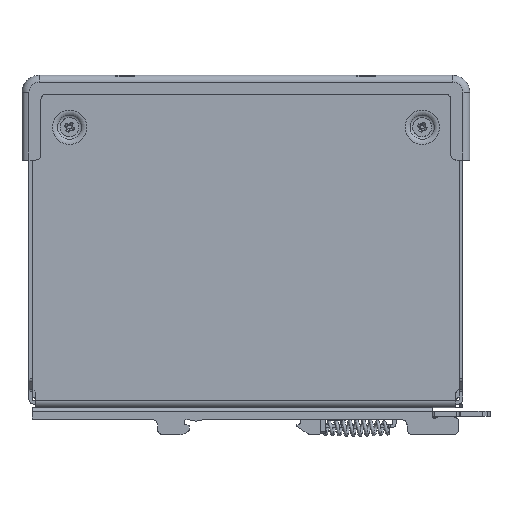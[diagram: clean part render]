
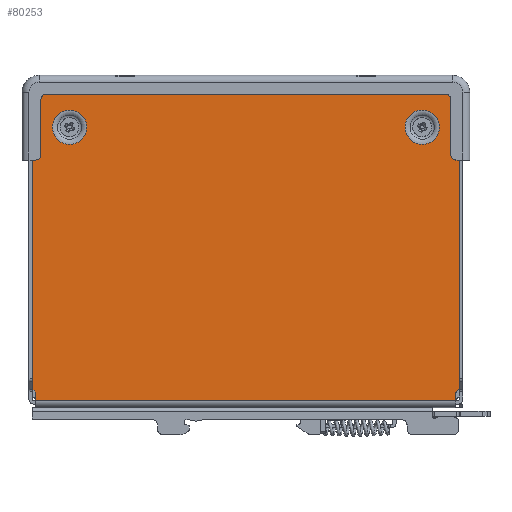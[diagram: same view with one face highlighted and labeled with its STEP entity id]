
A CAD part, left-side view. The second image highlights one B-rep face of the part: STEP entity #80253.
In plain terms, the highlighted planar face has unit normal (-1, 0, 0).
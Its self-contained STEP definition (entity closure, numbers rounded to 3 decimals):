
#1786=CIRCLE('',#85805,4.982);
#1787=CIRCLE('',#85806,0.5);
#1788=CIRCLE('',#85807,0.5);
#1789=CIRCLE('',#85808,0.5);
#1790=CIRCLE('',#85809,1.5);
#1791=CIRCLE('',#85810,1.5);
#1792=CIRCLE('',#85811,1.5);
#1793=CIRCLE('',#85812,1.5);
#1794=CIRCLE('',#85813,0.5);
#1795=CIRCLE('',#85814,0.5);
#1796=CIRCLE('',#85815,0.5);
#1797=CIRCLE('',#85816,4.982);
#11915=ORIENTED_EDGE('',*,*,#29465,.T.);
#11916=ORIENTED_EDGE('',*,*,#29466,.T.);
#11917=ORIENTED_EDGE('',*,*,#29467,.T.);
#11918=ORIENTED_EDGE('',*,*,#29468,.F.);
#11919=ORIENTED_EDGE('',*,*,#29469,.T.);
#11920=ORIENTED_EDGE('',*,*,#29470,.F.);
#11921=ORIENTED_EDGE('',*,*,#29471,.T.);
#11922=ORIENTED_EDGE('',*,*,#29472,.T.);
#11923=ORIENTED_EDGE('',*,*,#29473,.T.);
#11924=ORIENTED_EDGE('',*,*,#29474,.F.);
#11925=ORIENTED_EDGE('',*,*,#29475,.T.);
#11926=ORIENTED_EDGE('',*,*,#29476,.T.);
#11927=ORIENTED_EDGE('',*,*,#29477,.T.);
#11928=ORIENTED_EDGE('',*,*,#29478,.T.);
#11929=ORIENTED_EDGE('',*,*,#29479,.T.);
#11930=ORIENTED_EDGE('',*,*,#29480,.T.);
#11931=ORIENTED_EDGE('',*,*,#29481,.T.);
#11932=ORIENTED_EDGE('',*,*,#29482,.T.);
#11933=ORIENTED_EDGE('',*,*,#29483,.T.);
#11934=ORIENTED_EDGE('',*,*,#29484,.F.);
#11935=ORIENTED_EDGE('',*,*,#29485,.T.);
#11936=ORIENTED_EDGE('',*,*,#29486,.T.);
#11937=ORIENTED_EDGE('',*,*,#29487,.T.);
#11938=ORIENTED_EDGE('',*,*,#29488,.T.);
#29465=EDGE_CURVE('',#40844,#40844,#1786,.T.);
#29466=EDGE_CURVE('',#40845,#40846,#49923,.T.);
#29467=EDGE_CURVE('',#40846,#40847,#49924,.T.);
#29468=EDGE_CURVE('',#40848,#40847,#49925,.T.);
#29469=EDGE_CURVE('',#40848,#40849,#1787,.T.);
#29470=EDGE_CURVE('',#40850,#40849,#49926,.T.);
#29471=EDGE_CURVE('',#40850,#40851,#1788,.T.);
#29472=EDGE_CURVE('',#40851,#40852,#49927,.T.);
#29473=EDGE_CURVE('',#40852,#40853,#1789,.T.);
#29474=EDGE_CURVE('',#40854,#40853,#49928,.T.);
#29475=EDGE_CURVE('',#40854,#40855,#1790,.T.);
#29476=EDGE_CURVE('',#40855,#40856,#49929,.T.);
#29477=EDGE_CURVE('',#40856,#40857,#1791,.T.);
#29478=EDGE_CURVE('',#40857,#40858,#49930,.T.);
#29479=EDGE_CURVE('',#40858,#40859,#1792,.T.);
#29480=EDGE_CURVE('',#40859,#40860,#49931,.T.);
#29481=EDGE_CURVE('',#40860,#40861,#1793,.T.);
#29482=EDGE_CURVE('',#40861,#40862,#49932,.T.);
#29483=EDGE_CURVE('',#40862,#40863,#1794,.T.);
#29484=EDGE_CURVE('',#40864,#40863,#49933,.T.);
#29485=EDGE_CURVE('',#40864,#40865,#1795,.T.);
#29486=EDGE_CURVE('',#40865,#40866,#49934,.T.);
#29487=EDGE_CURVE('',#40866,#40845,#1796,.T.);
#29488=EDGE_CURVE('',#40867,#40867,#1797,.T.);
#40844=VERTEX_POINT('',#121321);
#40845=VERTEX_POINT('',#121323);
#40846=VERTEX_POINT('',#121324);
#40847=VERTEX_POINT('',#121326);
#40848=VERTEX_POINT('',#121328);
#40849=VERTEX_POINT('',#121330);
#40850=VERTEX_POINT('',#121332);
#40851=VERTEX_POINT('',#121334);
#40852=VERTEX_POINT('',#121336);
#40853=VERTEX_POINT('',#121338);
#40854=VERTEX_POINT('',#121340);
#40855=VERTEX_POINT('',#121342);
#40856=VERTEX_POINT('',#121344);
#40857=VERTEX_POINT('',#121346);
#40858=VERTEX_POINT('',#121348);
#40859=VERTEX_POINT('',#121350);
#40860=VERTEX_POINT('',#121352);
#40861=VERTEX_POINT('',#121354);
#40862=VERTEX_POINT('',#121356);
#40863=VERTEX_POINT('',#121358);
#40864=VERTEX_POINT('',#121360);
#40865=VERTEX_POINT('',#121362);
#40866=VERTEX_POINT('',#121364);
#40867=VERTEX_POINT('',#121367);
#49923=LINE('',#121322,#59291);
#49924=LINE('',#121325,#59292);
#49925=LINE('',#121327,#59293);
#49926=LINE('',#121331,#59294);
#49927=LINE('',#121335,#59295);
#49928=LINE('',#121339,#59296);
#49929=LINE('',#121343,#59297);
#49930=LINE('',#121347,#59298);
#49931=LINE('',#121351,#59299);
#49932=LINE('',#121355,#59300);
#49933=LINE('',#121359,#59301);
#49934=LINE('',#121363,#59302);
#59291=VECTOR('',#98206,1000.);
#59292=VECTOR('',#98207,1000.);
#59293=VECTOR('',#98208,1000.);
#59294=VECTOR('',#98211,1000.);
#59295=VECTOR('',#98214,1000.);
#59296=VECTOR('',#98217,1000.);
#59297=VECTOR('',#98220,1000.);
#59298=VECTOR('',#98223,1000.);
#59299=VECTOR('',#98226,1000.);
#59300=VECTOR('',#98229,1000.);
#59301=VECTOR('',#98232,1000.);
#59302=VECTOR('',#98235,1000.);
#67462=EDGE_LOOP('',(#11915));
#67463=EDGE_LOOP('',(#11916,#11917,#11918,#11919,#11920,#11921,#11922,#11923,
#11924,#11925,#11926,#11927,#11928,#11929,#11930,#11931,#11932,#11933,#11934,
#11935,#11936,#11937));
#67464=EDGE_LOOP('',(#11938));
#71573=FACE_BOUND('',#67462,.T.);
#71574=FACE_BOUND('',#67463,.T.);
#71575=FACE_BOUND('',#67464,.T.);
#74820=PLANE('',#85804);
#80253=ADVANCED_FACE('',(#71573,#71574,#71575),#74820,.F.);
#85804=AXIS2_PLACEMENT_3D('',#121319,#98202,#98203);
#85805=AXIS2_PLACEMENT_3D('',#121320,#98204,#98205);
#85806=AXIS2_PLACEMENT_3D('',#121329,#98209,#98210);
#85807=AXIS2_PLACEMENT_3D('',#121333,#98212,#98213);
#85808=AXIS2_PLACEMENT_3D('',#121337,#98215,#98216);
#85809=AXIS2_PLACEMENT_3D('',#121341,#98218,#98219);
#85810=AXIS2_PLACEMENT_3D('',#121345,#98221,#98222);
#85811=AXIS2_PLACEMENT_3D('',#121349,#98224,#98225);
#85812=AXIS2_PLACEMENT_3D('',#121353,#98227,#98228);
#85813=AXIS2_PLACEMENT_3D('',#121357,#98230,#98231);
#85814=AXIS2_PLACEMENT_3D('',#121361,#98233,#98234);
#85815=AXIS2_PLACEMENT_3D('',#121365,#98236,#98237);
#85816=AXIS2_PLACEMENT_3D('',#121366,#98238,#98239);
#98202=DIRECTION('',(1.,0.,0.));
#98203=DIRECTION('',(0.,1.,0.));
#98204=DIRECTION('',(1.,0.,0.));
#98205=DIRECTION('',(0.,0.,-1.));
#98206=DIRECTION('',(0.,0.,-1.));
#98207=DIRECTION('',(0.,-1.,0.));
#98208=DIRECTION('',(0.,0.,-1.));
#98209=DIRECTION('',(1.,0.,0.));
#98210=DIRECTION('',(0.,0.,-1.));
#98211=DIRECTION('',(0.,0.707,-0.707));
#98212=DIRECTION('',(-1.,0.,0.));
#98213=DIRECTION('',(0.,0.,-1.));
#98214=DIRECTION('',(0.,0.,1.));
#98215=DIRECTION('',(-1.,0.,0.));
#98216=DIRECTION('',(0.,0.,-1.));
#98217=DIRECTION('',(0.,-1.,0.));
#98218=DIRECTION('',(1.,0.,0.));
#98219=DIRECTION('',(0.,0.,-1.));
#98220=DIRECTION('',(0.,0.,1.));
#98221=DIRECTION('',(-1.,0.,0.));
#98222=DIRECTION('',(0.,0.,-1.));
#98223=DIRECTION('',(0.,1.,0.));
#98224=DIRECTION('',(-1.,0.,0.));
#98225=DIRECTION('',(0.,0.,-1.));
#98226=DIRECTION('',(0.,0.,-1.));
#98227=DIRECTION('',(1.,0.,0.));
#98228=DIRECTION('',(0.,0.,-1.));
#98229=DIRECTION('',(0.,1.,0.));
#98230=DIRECTION('',(-1.,0.,0.));
#98231=DIRECTION('',(0.,0.,-1.));
#98232=DIRECTION('',(0.,0.,1.));
#98233=DIRECTION('',(-1.,0.,0.));
#98234=DIRECTION('',(0.,0.,-1.));
#98235=DIRECTION('',(0.,-0.707,-0.707));
#98236=DIRECTION('',(1.,0.,0.));
#98237=DIRECTION('',(0.,0.,-1.));
#98238=DIRECTION('',(1.,0.,0.));
#98239=DIRECTION('',(0.,0.,-1.));
#121319=CARTESIAN_POINT('',(-139.023,128.,1.92));
#121320=CARTESIAN_POINT('',(-139.023,115.2,108.37));
#121321=CARTESIAN_POINT('',(-139.023,115.2,103.388));
#121322=CARTESIAN_POINT('',(-139.023,125.,36.334));
#121323=CARTESIAN_POINT('',(-139.023,125.,31.12));
#121324=CARTESIAN_POINT('',(-139.023,125.,28.92));
#121325=CARTESIAN_POINT('',(-139.023,457.459,28.92));
#121326=CARTESIAN_POINT('',(-139.023,3.,28.92));
#121327=CARTESIAN_POINT('',(-139.023,3.,36.334));
#121328=CARTESIAN_POINT('',(-139.023,3.,31.123));
#121329=CARTESIAN_POINT('',(-139.023,2.5,31.123));
#121330=CARTESIAN_POINT('',(-139.023,2.854,31.477));
#121331=CARTESIAN_POINT('',(-139.023,1.,33.331));
#121332=CARTESIAN_POINT('',(-139.023,2.146,32.184));
#121333=CARTESIAN_POINT('',(-139.023,2.5,32.538));
#121334=CARTESIAN_POINT('',(-139.023,2.,32.538));
#121335=CARTESIAN_POINT('',(-139.023,2.,1.92));
#121336=CARTESIAN_POINT('',(-139.023,2.,98.32));
#121337=CARTESIAN_POINT('',(-139.023,2.5,98.32));
#121338=CARTESIAN_POINT('',(-139.023,2.5,98.82));
#121339=CARTESIAN_POINT('',(-139.023,128.,98.82));
#121340=CARTESIAN_POINT('',(-139.023,3.,98.82));
#121341=CARTESIAN_POINT('',(-139.023,3.,100.32));
#121342=CARTESIAN_POINT('',(-139.023,4.5,100.32));
#121343=CARTESIAN_POINT('',(-139.023,4.5,96.22));
#121344=CARTESIAN_POINT('',(-139.023,4.5,116.42));
#121345=CARTESIAN_POINT('',(-139.023,6.,116.42));
#121346=CARTESIAN_POINT('',(-139.023,6.,117.92));
#121347=CARTESIAN_POINT('',(-139.023,128.,117.92));
#121348=CARTESIAN_POINT('',(-139.023,122.,117.92));
#121349=CARTESIAN_POINT('',(-139.023,122.,116.42));
#121350=CARTESIAN_POINT('',(-139.023,123.5,116.42));
#121351=CARTESIAN_POINT('',(-139.023,123.5,118.92));
#121352=CARTESIAN_POINT('',(-139.023,123.5,100.32));
#121353=CARTESIAN_POINT('',(-139.023,125.,100.32));
#121354=CARTESIAN_POINT('',(-139.023,125.,98.82));
#121355=CARTESIAN_POINT('',(-139.023,128.,98.82));
#121356=CARTESIAN_POINT('',(-139.023,125.5,98.82));
#121357=CARTESIAN_POINT('',(-139.023,125.5,98.32));
#121358=CARTESIAN_POINT('',(-139.023,126.,98.32));
#121359=CARTESIAN_POINT('',(-139.023,126.,1.92));
#121360=CARTESIAN_POINT('',(-139.023,126.,32.534));
#121361=CARTESIAN_POINT('',(-139.023,125.5,32.534));
#121362=CARTESIAN_POINT('',(-139.023,125.854,32.181));
#121363=CARTESIAN_POINT('',(-139.023,127.002,33.329));
#121364=CARTESIAN_POINT('',(-139.023,125.146,31.474));
#121365=CARTESIAN_POINT('',(-139.023,125.5,31.12));
#121366=CARTESIAN_POINT('',(-139.023,12.8,108.37));
#121367=CARTESIAN_POINT('',(-139.023,12.8,103.388));
